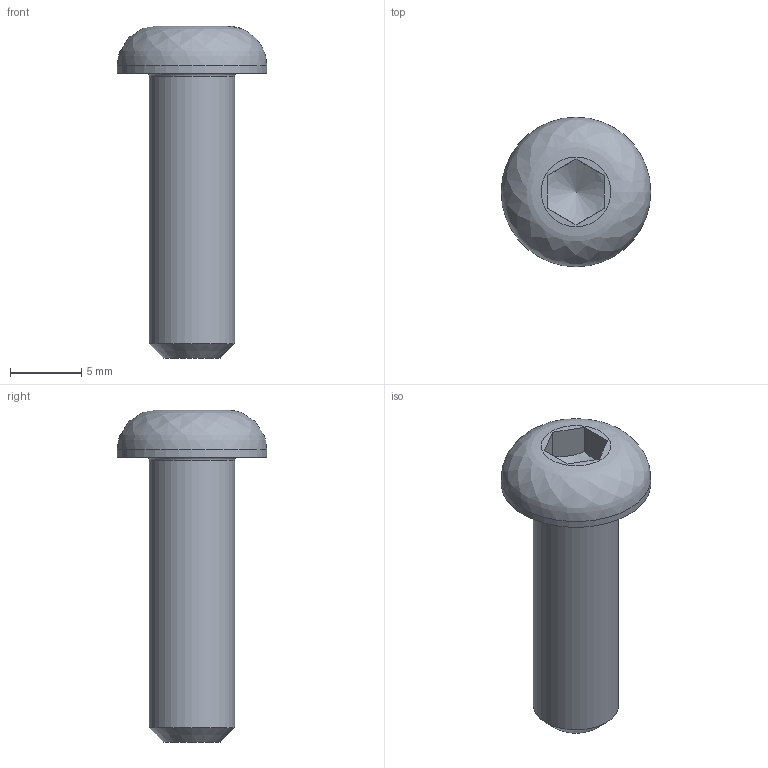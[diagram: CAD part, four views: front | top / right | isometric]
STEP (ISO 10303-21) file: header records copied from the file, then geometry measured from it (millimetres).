
FILE_DESCRIPTION(/* description */ (''),/* implementation_level */ '2;1');
FILE_NAME(/* name */ 'C:\Users\unitec\Documents\Inventor\各種小物\JIS\JIS B 1174 六角穴付きボタンボルト\BASE\M6\M6x20.stp',/* time_stamp */ '2015-07-21T18:23:27+09:00',/* author */ ('unitec'),/* organization */ (''),/* preprocessor_version */ 'ST-DEVELOPER v15.2',/* originating_system */ 'Autodesk Inventor 2014',/* authorisation */ '');
FILE_SCHEMA (('AUTOMOTIVE_DESIGN { 1 0 10303 214 3 1 1 }'));
Length unit declared in the file: millimetre
Products named in the file (1): M6x20
Bounding box: 10.5 x 10.5 x 23.3 mm (x, y, z)
Volume: 758 mm3; surface area: 634.1 mm2
Topology: 1 solids, 1 shells, 15 faces, 35 edges, 23 vertices
Faces by surface type: plane 9, cylinder 2, cone 2, torus 1, bspline 1
Full cylindrical faces by diameter (mm): 6 x1, 10.5 x1
Entity records: 423 total; most frequent: CARTESIAN_POINT 105, DIRECTION 60, ORIENTED_EDGE 56, EDGE_CURVE 28, AXIS2_PLACEMENT_3D 24, EDGE_LOOP 21, VERTEX_POINT 21, FACE_OUTER_BOUND 15
